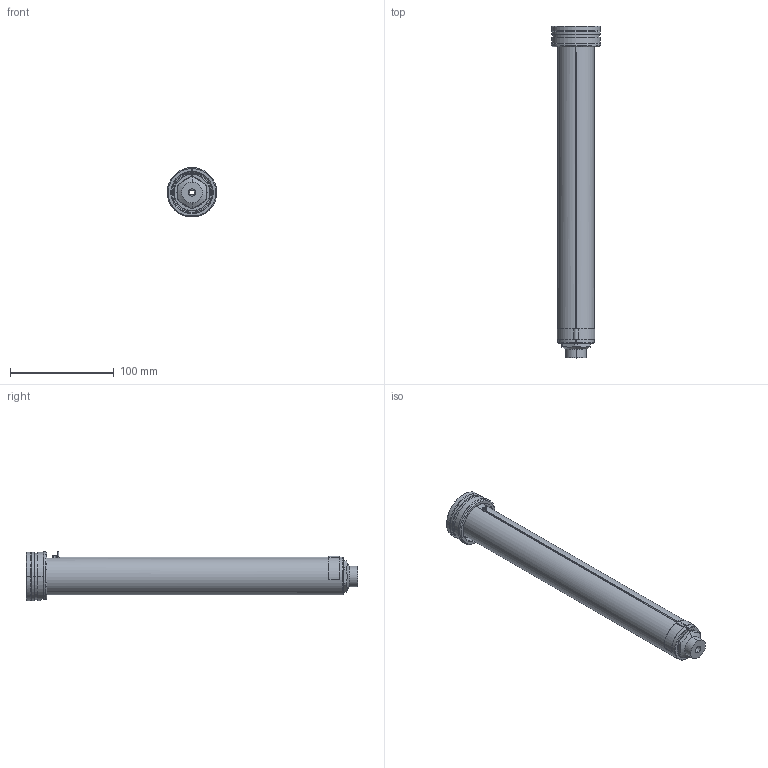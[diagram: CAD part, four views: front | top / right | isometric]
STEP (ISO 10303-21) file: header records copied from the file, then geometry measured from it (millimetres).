
FILE_DESCRIPTION((''),'2;1');
FILE_NAME('EO16_VG-ST_STD_300_SW','2024-02-19T12:56:40',('sundharh'),(''),'CREO PARAMETRIC BY PTC INC, 2023154','CREO PARAMETRIC BY PTC INC, 2023154','');
FILE_SCHEMA(('CONFIG_CONTROL_DESIGN'));
Length unit declared in the file: millimetre
Products named in the file (1): EO16_VG-ST_STD_300_SW
Bounding box: 47.97 x 320 x 48 mm (x, y, z)
Volume: 259436.3 mm3; surface area: 59578.5 mm2
Topology: 1 solids, 1 shells, 169 faces, 418 edges, 256 vertices
Faces by surface type: cylinder 64, plane 45, cone 35, torus 14, bspline 9, sphere 2
Entity records: 5905 total; most frequent: CARTESIAN_POINT 1819, DIRECTION 906, ORIENTED_EDGE 824, EDGE_CURVE 412, AXIS2_PLACEMENT_3D 374, VERTEX_POINT 256, CIRCLE 214, EDGE_LOOP 184
